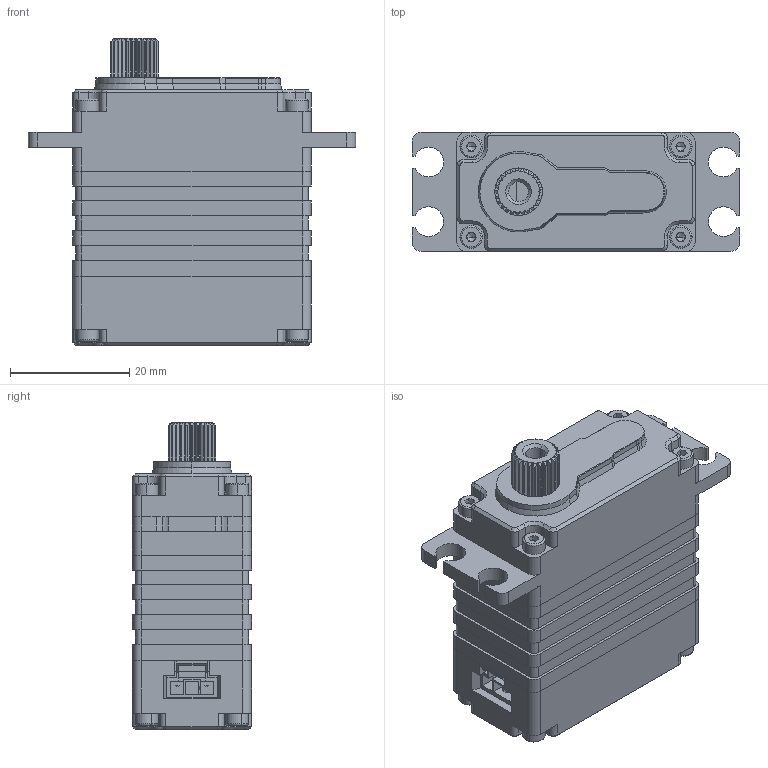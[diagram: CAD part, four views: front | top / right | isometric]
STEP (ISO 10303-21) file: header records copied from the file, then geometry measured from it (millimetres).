
FILE_DESCRIPTION (( 'STEP AP214' ), '1' );
FILE_NAME ('X20-9015_DM_20240920.STEP', '2024-09-20T03:58:36', ( '' ), ( '' ), 'SwSTEP 2.0', 'SolidWorks 2016', '' );
FILE_SCHEMA (( 'AUTOMOTIVE_DESIGN' ));
Length unit declared in the file: millimetre
Products named in the file (1): X20-9015_DM_20240920
Bounding box: 55 x 20 x 51.6 mm (x, y, z)
Surface area: 9507.4 mm2 (no closed solid volume)
Topology: 0 solids, 22 shells, 569 faces, 1698 edges, 1126 vertices
Faces by surface type: plane 307, cylinder 166, cone 80, torus 16
Entity records: 25226 total; most frequent: CARTESIAN_POINT 3537, DIRECTION 3295, ORIENTED_EDGE 3060, EDGE_CURVE 1682, VERTEX_POINT 1126, VECTOR 1103, LINE 1103, AXIS2_PLACEMENT_3D 1096
